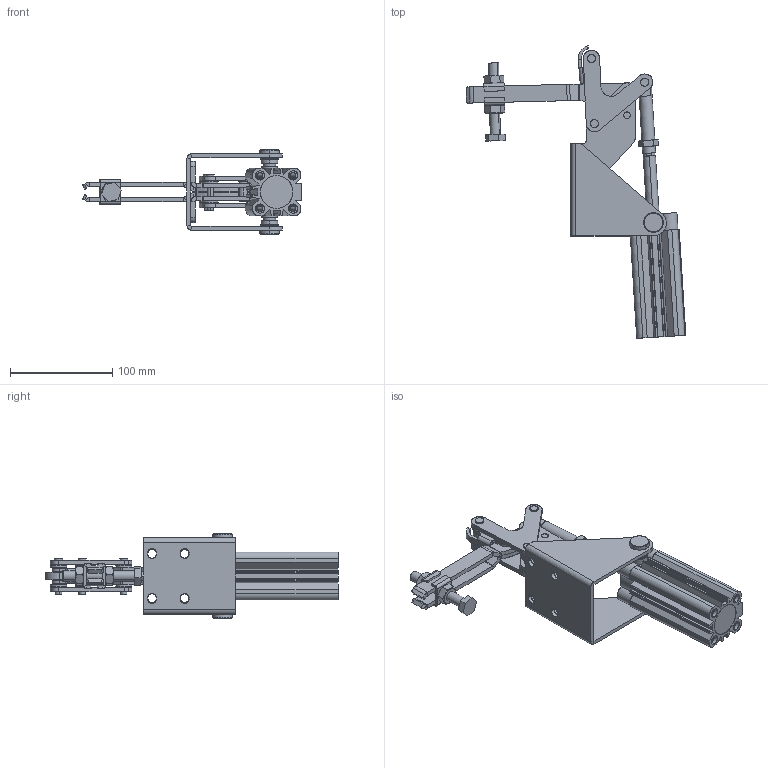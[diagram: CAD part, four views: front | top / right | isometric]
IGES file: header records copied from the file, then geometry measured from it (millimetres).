
Start section: SolidWorks IGES file using analytic representation for surfaces
Global section: file name: C:\Projetos\Grampos\KF-311 P\KF-311 DB P\KF-311 DB P.IGS; native system: SolidWorks 2015; preprocessor: SolidWorks 2015; author: Ricardo; date: 161215.113505; units: millimetre
Bounding box: 215.27 x 286.95 x 83 mm (x, y, z)
Surface area: 179365.3 mm2 (no closed solid volume)
Topology: 0 solids, 0 shells, 869 faces, 13916 edges, 13906 vertices
Faces by surface type: revolution 505, bspline 364
